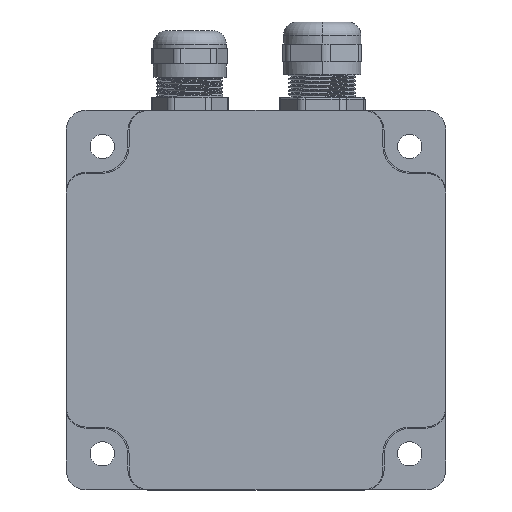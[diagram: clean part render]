
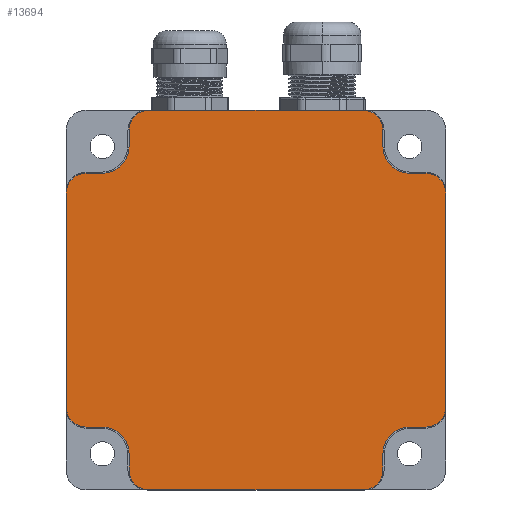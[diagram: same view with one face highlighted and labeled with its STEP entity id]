
A CAD part, front view. The second image highlights one B-rep face of the part: STEP entity #13694.
In plain terms, the highlighted planar face has unit normal (0, -1, 0).
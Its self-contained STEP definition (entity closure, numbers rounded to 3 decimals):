
#13123=DIRECTION('',(-1.,0.,0.));
#13124=VECTOR('',#13123,3.75);
#13125=CARTESIAN_POINT('',(38.5,0.,-28.75));
#13126=LINE('',#13125,#13124);
#13127=DIRECTION('',(0.,0.,-1.));
#13128=VECTOR('',#13127,3.75);
#13129=CARTESIAN_POINT('',(28.75,0.,-34.75));
#13130=LINE('',#13129,#13128);
#13131=CARTESIAN_POINT('',(24.25,0.,-38.5));
#13132=DIRECTION('',(0.,-1.,0.));
#13133=DIRECTION('',(0.,0.,-1.));
#13134=AXIS2_PLACEMENT_3D('',#13131,#13132,#13133);
#13136=DIRECTION('',(-1.,0.,0.));
#13137=VECTOR('',#13136,48.5);
#13138=CARTESIAN_POINT('',(24.25,0.,-43.));
#13139=LINE('',#13138,#13137);
#13140=CARTESIAN_POINT('',(-24.25,0.,-38.5));
#13141=DIRECTION('',(0.,-1.,0.));
#13142=DIRECTION('',(-1.,0.,0.));
#13143=AXIS2_PLACEMENT_3D('',#13140,#13141,#13142);
#13145=DIRECTION('',(0.,0.,1.));
#13146=VECTOR('',#13145,3.75);
#13147=CARTESIAN_POINT('',(-28.75,0.,-38.5));
#13148=LINE('',#13147,#13146);
#13149=DIRECTION('',(-1.,0.,0.));
#13150=VECTOR('',#13149,3.75);
#13151=CARTESIAN_POINT('',(-34.75,0.,-28.75));
#13152=LINE('',#13151,#13150);
#13153=CARTESIAN_POINT('',(-38.5,0.,-24.25));
#13154=DIRECTION('',(0.,-1.,0.));
#13155=DIRECTION('',(-1.,0.,0.));
#13156=AXIS2_PLACEMENT_3D('',#13153,#13154,#13155);
#13158=DIRECTION('',(0.,0.,1.));
#13159=VECTOR('',#13158,48.5);
#13160=CARTESIAN_POINT('',(-43.,0.,-24.25));
#13161=LINE('',#13160,#13159);
#13162=CARTESIAN_POINT('',(-38.5,0.,24.25));
#13163=DIRECTION('',(0.,-1.,0.));
#13164=DIRECTION('',(0.,0.,1.));
#13165=AXIS2_PLACEMENT_3D('',#13162,#13163,#13164);
#13167=DIRECTION('',(1.,0.,0.));
#13168=VECTOR('',#13167,3.75);
#13169=CARTESIAN_POINT('',(-38.5,0.,28.75));
#13170=LINE('',#13169,#13168);
#13171=DIRECTION('',(0.,0.,1.));
#13172=VECTOR('',#13171,3.75);
#13173=CARTESIAN_POINT('',(-28.75,0.,34.75));
#13174=LINE('',#13173,#13172);
#13175=CARTESIAN_POINT('',(-24.25,0.,38.5));
#13176=DIRECTION('',(0.,-1.,0.));
#13177=DIRECTION('',(0.,0.,1.));
#13178=AXIS2_PLACEMENT_3D('',#13175,#13176,#13177);
#13180=DIRECTION('',(1.,0.,0.));
#13181=VECTOR('',#13180,48.5);
#13182=CARTESIAN_POINT('',(-24.25,0.,43.));
#13183=LINE('',#13182,#13181);
#13184=CARTESIAN_POINT('',(24.25,0.,38.5));
#13185=DIRECTION('',(0.,-1.,0.));
#13186=DIRECTION('',(1.,0.,0.));
#13187=AXIS2_PLACEMENT_3D('',#13184,#13185,#13186);
#13189=DIRECTION('',(0.,0.,-1.));
#13190=VECTOR('',#13189,3.75);
#13191=CARTESIAN_POINT('',(28.75,0.,38.5));
#13192=LINE('',#13191,#13190);
#13193=DIRECTION('',(1.,0.,0.));
#13194=VECTOR('',#13193,3.75);
#13195=CARTESIAN_POINT('',(34.75,0.,28.75));
#13196=LINE('',#13195,#13194);
#13197=CARTESIAN_POINT('',(38.5,0.,24.25));
#13198=DIRECTION('',(0.,-1.,0.));
#13199=DIRECTION('',(1.,0.,0.));
#13200=AXIS2_PLACEMENT_3D('',#13197,#13198,#13199);
#13202=DIRECTION('',(0.,0.,-1.));
#13203=VECTOR('',#13202,48.5);
#13204=CARTESIAN_POINT('',(43.,0.,24.25));
#13205=LINE('',#13204,#13203);
#13206=CARTESIAN_POINT('',(38.5,0.,-24.25));
#13207=DIRECTION('',(0.,-1.,0.));
#13208=DIRECTION('',(0.,0.,-1.));
#13209=AXIS2_PLACEMENT_3D('',#13206,#13207,#13208);
#13219=CARTESIAN_POINT('',(34.75,0.,-34.75));
#13220=DIRECTION('',(0.,1.,0.));
#13221=DIRECTION('',(-1.,0.,0.));
#13222=AXIS2_PLACEMENT_3D('',#13219,#13220,#13221);
#13351=CARTESIAN_POINT('',(34.75,0.,34.75));
#13352=DIRECTION('',(0.,1.,0.));
#13353=DIRECTION('',(0.,0.,-1.));
#13354=AXIS2_PLACEMENT_3D('',#13351,#13352,#13353);
#13405=CARTESIAN_POINT('',(-34.75,0.,34.75));
#13406=DIRECTION('',(0.,1.,0.));
#13407=DIRECTION('',(1.,0.,0.));
#13408=AXIS2_PLACEMENT_3D('',#13405,#13406,#13407);
#13439=CARTESIAN_POINT('',(-34.75,0.,-34.75));
#13440=DIRECTION('',(0.,1.,0.));
#13441=DIRECTION('',(0.,0.,1.));
#13442=AXIS2_PLACEMENT_3D('',#13439,#13440,#13441);
#13519=CARTESIAN_POINT('',(-28.75,0.,-38.5));
#13520=CARTESIAN_POINT('',(-24.25,0.,-43.));
#13521=VERTEX_POINT('',#13519);
#13522=VERTEX_POINT('',#13520);
#13527=CARTESIAN_POINT('',(-43.,0.,-24.25));
#13528=CARTESIAN_POINT('',(-38.5,0.,-28.75));
#13529=VERTEX_POINT('',#13527);
#13530=VERTEX_POINT('',#13528);
#13535=CARTESIAN_POINT('',(-38.5,0.,28.75));
#13536=CARTESIAN_POINT('',(-43.,0.,24.25));
#13537=VERTEX_POINT('',#13535);
#13538=VERTEX_POINT('',#13536);
#13543=CARTESIAN_POINT('',(-24.25,0.,43.));
#13544=CARTESIAN_POINT('',(-28.75,0.,38.5));
#13545=VERTEX_POINT('',#13543);
#13546=VERTEX_POINT('',#13544);
#13551=CARTESIAN_POINT('',(28.75,0.,38.5));
#13552=CARTESIAN_POINT('',(24.25,0.,43.));
#13553=VERTEX_POINT('',#13551);
#13554=VERTEX_POINT('',#13552);
#13559=CARTESIAN_POINT('',(43.,0.,24.25));
#13560=CARTESIAN_POINT('',(38.5,0.,28.75));
#13561=VERTEX_POINT('',#13559);
#13562=VERTEX_POINT('',#13560);
#13567=CARTESIAN_POINT('',(38.5,0.,-28.75));
#13568=CARTESIAN_POINT('',(43.,0.,-24.25));
#13569=VERTEX_POINT('',#13567);
#13570=VERTEX_POINT('',#13568);
#13575=CARTESIAN_POINT('',(24.25,0.,-43.));
#13576=CARTESIAN_POINT('',(28.75,0.,-38.5));
#13577=VERTEX_POINT('',#13575);
#13578=VERTEX_POINT('',#13576);
#13583=CARTESIAN_POINT('',(-34.75,0.,-28.75));
#13585=VERTEX_POINT('',#13583);
#13587=CARTESIAN_POINT('',(-28.75,0.,-34.75));
#13589=VERTEX_POINT('',#13587);
#13591=CARTESIAN_POINT('',(28.75,0.,-34.75));
#13593=VERTEX_POINT('',#13591);
#13595=CARTESIAN_POINT('',(34.75,0.,-28.75));
#13597=VERTEX_POINT('',#13595);
#13599=CARTESIAN_POINT('',(-28.75,0.,34.75));
#13601=VERTEX_POINT('',#13599);
#13603=CARTESIAN_POINT('',(-34.75,0.,28.75));
#13605=VERTEX_POINT('',#13603);
#13607=CARTESIAN_POINT('',(34.75,0.,28.75));
#13609=VERTEX_POINT('',#13607);
#13611=CARTESIAN_POINT('',(28.75,0.,34.75));
#13613=VERTEX_POINT('',#13611);
#13639=CARTESIAN_POINT('',(0.,0.,0.));
#13640=DIRECTION('',(0.,1.,0.));
#13641=DIRECTION('',(1.,0.,0.));
#13642=AXIS2_PLACEMENT_3D('',#13639,#13640,#13641);
#13643=PLANE('',#13642);
#13645=ORIENTED_EDGE('',*,*,#13644,.T.);
#13647=ORIENTED_EDGE('',*,*,#13646,.F.);
#13649=ORIENTED_EDGE('',*,*,#13648,.T.);
#13651=ORIENTED_EDGE('',*,*,#13650,.F.);
#13653=ORIENTED_EDGE('',*,*,#13652,.T.);
#13655=ORIENTED_EDGE('',*,*,#13654,.F.);
#13657=ORIENTED_EDGE('',*,*,#13656,.T.);
#13659=ORIENTED_EDGE('',*,*,#13658,.F.);
#13661=ORIENTED_EDGE('',*,*,#13660,.T.);
#13663=ORIENTED_EDGE('',*,*,#13662,.F.);
#13665=ORIENTED_EDGE('',*,*,#13664,.T.);
#13667=ORIENTED_EDGE('',*,*,#13666,.F.);
#13669=ORIENTED_EDGE('',*,*,#13668,.T.);
#13671=ORIENTED_EDGE('',*,*,#13670,.F.);
#13673=ORIENTED_EDGE('',*,*,#13672,.T.);
#13675=ORIENTED_EDGE('',*,*,#13674,.F.);
#13677=ORIENTED_EDGE('',*,*,#13676,.T.);
#13679=ORIENTED_EDGE('',*,*,#13678,.F.);
#13681=ORIENTED_EDGE('',*,*,#13680,.T.);
#13683=ORIENTED_EDGE('',*,*,#13682,.F.);
#13685=ORIENTED_EDGE('',*,*,#13684,.T.);
#13687=ORIENTED_EDGE('',*,*,#13686,.F.);
#13689=ORIENTED_EDGE('',*,*,#13688,.T.);
#13691=ORIENTED_EDGE('',*,*,#13690,.F.);
#13692=EDGE_LOOP('',(#13645,#13647,#13649,#13651,#13653,#13655,#13657,#13659,
#13661,#13663,#13665,#13667,#13669,#13671,#13673,#13675,#13677,#13679,#13681,
#13683,#13685,#13687,#13689,#13691));
#13693=FACE_OUTER_BOUND('',#13692,.F.);
#13694=ADVANCED_FACE('',(#13693),#13643,.F.);
#13135=CIRCLE('',#13134,4.5);
#13144=CIRCLE('',#13143,4.5);
#13157=CIRCLE('',#13156,4.5);
#13166=CIRCLE('',#13165,4.5);
#13179=CIRCLE('',#13178,4.5);
#13188=CIRCLE('',#13187,4.5);
#13201=CIRCLE('',#13200,4.5);
#13210=CIRCLE('',#13209,4.5);
#13223=CIRCLE('',#13222,6.);
#13355=CIRCLE('',#13354,6.);
#13409=CIRCLE('',#13408,6.);
#13443=CIRCLE('',#13442,6.);
#13644=EDGE_CURVE('',#13569,#13597,#13126,.T.);
#13646=EDGE_CURVE('',#13593,#13597,#13223,.T.);
#13648=EDGE_CURVE('',#13593,#13578,#13130,.T.);
#13650=EDGE_CURVE('',#13577,#13578,#13135,.T.);
#13652=EDGE_CURVE('',#13577,#13522,#13139,.T.);
#13654=EDGE_CURVE('',#13521,#13522,#13144,.T.);
#13656=EDGE_CURVE('',#13521,#13589,#13148,.T.);
#13658=EDGE_CURVE('',#13585,#13589,#13443,.T.);
#13660=EDGE_CURVE('',#13585,#13530,#13152,.T.);
#13662=EDGE_CURVE('',#13529,#13530,#13157,.T.);
#13664=EDGE_CURVE('',#13529,#13538,#13161,.T.);
#13666=EDGE_CURVE('',#13537,#13538,#13166,.T.);
#13668=EDGE_CURVE('',#13537,#13605,#13170,.T.);
#13670=EDGE_CURVE('',#13601,#13605,#13409,.T.);
#13672=EDGE_CURVE('',#13601,#13546,#13174,.T.);
#13674=EDGE_CURVE('',#13545,#13546,#13179,.T.);
#13676=EDGE_CURVE('',#13545,#13554,#13183,.T.);
#13678=EDGE_CURVE('',#13553,#13554,#13188,.T.);
#13680=EDGE_CURVE('',#13553,#13613,#13192,.T.);
#13682=EDGE_CURVE('',#13609,#13613,#13355,.T.);
#13684=EDGE_CURVE('',#13609,#13562,#13196,.T.);
#13686=EDGE_CURVE('',#13561,#13562,#13201,.T.);
#13688=EDGE_CURVE('',#13561,#13570,#13205,.T.);
#13690=EDGE_CURVE('',#13569,#13570,#13210,.T.);
